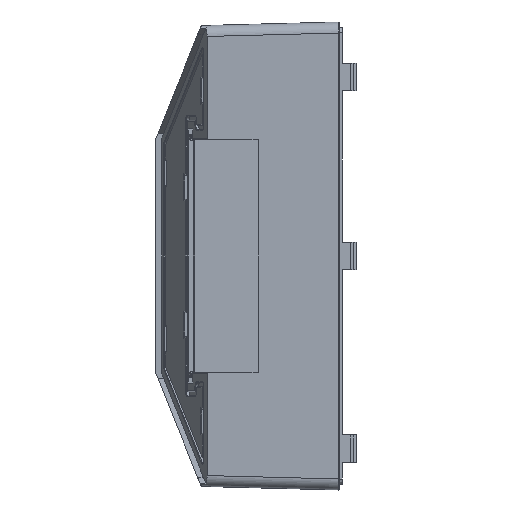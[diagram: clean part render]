
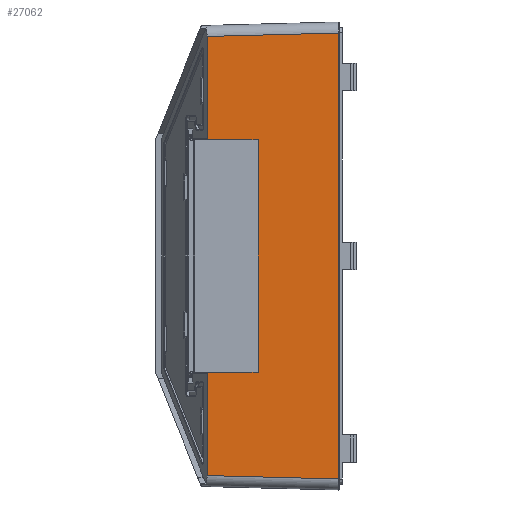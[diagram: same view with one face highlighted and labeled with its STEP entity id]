
A CAD part, left-side view. The second image highlights one B-rep face of the part: STEP entity #27062.
In plain terms, the highlighted planar face has unit normal (-1, 0.026, 0).
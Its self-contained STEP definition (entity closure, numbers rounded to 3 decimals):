
#5964=CARTESIAN_POINT('',(-84.992,0.3,80.994));
#5966=DIRECTION('',(0.,0.,1.));
#5967=VECTOR('',#5966,161.987);
#5968=CARTESIAN_POINT('',(-84.992,0.3,-80.994));
#5969=LINE('',#5968,#5967);
#5970=DIRECTION('',(-0.026,-0.999,-0.026));
#5971=VECTOR('',#5970,47.657);
#5972=CARTESIAN_POINT('',(-83.745,47.924,
-79.746));
#5973=LINE('',#5972,#5971);
#5974=DIRECTION('',(0.,0.,1.));
#5975=VECTOR('',#5974,37.096);
#5976=CARTESIAN_POINT('',(-83.745,47.924,
-79.746));
#5977=LINE('',#5976,#5975);
#5978=DIRECTION('',(-0.026,-1.,0.));
#5979=VECTOR('',#5978,0.156);
#5980=CARTESIAN_POINT('',(-83.745,47.924,-42.65));
#5981=LINE('',#5980,#5979);
#5982=DIRECTION('',(0.,0.,-1.));
#5983=VECTOR('',#5982,84.4);
#5984=CARTESIAN_POINT('',(-84.23,29.4,42.2));
#5985=LINE('',#5984,#5983);
#5986=DIRECTION('',(0.026,1.,0.));
#5987=VECTOR('',#5986,18.375);
#5988=CARTESIAN_POINT('',(-84.23,29.4,42.2));
#5989=LINE('',#5988,#5987);
#5990=DIRECTION('',(-0.026,-1.,0.));
#5991=VECTOR('',#5990,0.156);
#5992=CARTESIAN_POINT('',(-83.745,47.924,42.65));
#5993=LINE('',#5992,#5991);
#5994=DIRECTION('',(0.,0.,1.));
#5995=VECTOR('',#5994,37.096);
#5996=CARTESIAN_POINT('',(-83.745,47.924,42.65));
#5997=LINE('',#5996,#5995);
#5998=DIRECTION('',(-0.026,-0.999,0.026));
#5999=VECTOR('',#5998,47.657);
#6000=CARTESIAN_POINT('',(-83.745,47.924,79.746));
#6001=LINE('',#6000,#5999);
#6002=CARTESIAN_POINT('',(-84.992,0.3,-80.994));
#6194=CARTESIAN_POINT('',(-83.745,47.924,
-79.746));
#6212=CARTESIAN_POINT('',(-83.745,47.924,79.746));
#7649=DIRECTION('',(0.,0.,1.));
#7650=VECTOR('',#7649,0.45);
#7651=CARTESIAN_POINT('',(-83.749,47.769,-42.65));
#7652=LINE('',#7651,#7650);
#7657=DIRECTION('',(0.,0.,1.));
#7658=VECTOR('',#7657,0.45);
#7659=CARTESIAN_POINT('',(-83.749,47.769,42.2));
#7660=LINE('',#7659,#7658);
#7677=DIRECTION('',(0.026,1.,0.));
#7678=VECTOR('',#7677,18.375);
#7679=CARTESIAN_POINT('',(-84.23,29.4,-42.2));
#7680=LINE('',#7679,#7678);
#16599=VERTEX_POINT('',#6194);
#16600=VERTEX_POINT('',#6212);
#16609=CARTESIAN_POINT('',(-83.745,47.924,-42.65));
#16610=VERTEX_POINT('',#16609);
#16611=CARTESIAN_POINT('',(-83.745,47.924,42.65));
#16612=VERTEX_POINT('',#16611);
#19047=CARTESIAN_POINT('',(-84.23,29.4,42.2));
#19048=VERTEX_POINT('',#19047);
#19049=CARTESIAN_POINT('',(-83.749,47.769,42.2));
#19050=CARTESIAN_POINT('',(-83.749,47.769,42.65));
#19051=VERTEX_POINT('',#19049);
#19052=VERTEX_POINT('',#19050);
#19053=CARTESIAN_POINT('',(-84.23,29.4,-42.2));
#19054=VERTEX_POINT('',#19053);
#19055=CARTESIAN_POINT('',(-83.749,47.769,-42.65));
#19056=CARTESIAN_POINT('',(-83.749,47.769,-42.2));
#19057=VERTEX_POINT('',#19055);
#19058=VERTEX_POINT('',#19056);
#19243=VERTEX_POINT('',#6002);
#19244=VERTEX_POINT('',#5964);
#27033=CARTESIAN_POINT('',(-85.,0.,-85.));
#27034=DIRECTION('',(-1.,0.026,0.));
#27035=DIRECTION('',(0.,0.,1.));
#27036=AXIS2_PLACEMENT_3D('',#27033,#27034,#27035);
#27037=PLANE('',#27036);
#27038=ORIENTED_EDGE('',*,*,#26960,.F.);
#27040=ORIENTED_EDGE('',*,*,#27039,.F.);
#27042=ORIENTED_EDGE('',*,*,#27041,.T.);
#27044=ORIENTED_EDGE('',*,*,#27043,.T.);
#27046=ORIENTED_EDGE('',*,*,#27045,.T.);
#27048=ORIENTED_EDGE('',*,*,#27047,.F.);
#27050=ORIENTED_EDGE('',*,*,#27049,.F.);
#27052=ORIENTED_EDGE('',*,*,#27051,.T.);
#27054=ORIENTED_EDGE('',*,*,#27053,.T.);
#27056=ORIENTED_EDGE('',*,*,#27055,.F.);
#27058=ORIENTED_EDGE('',*,*,#27057,.T.);
#27059=ORIENTED_EDGE('',*,*,#27021,.T.);
#27060=EDGE_LOOP('',(#27038,#27040,#27042,#27044,#27046,#27048,#27050,#27052,
#27054,#27056,#27058,#27059));
#27061=FACE_OUTER_BOUND('',#27060,.F.);
#27062=ADVANCED_FACE('',(#27061),#27037,.T.);
#26960=EDGE_CURVE('',#19243,#19244,#5969,.T.);
#27021=EDGE_CURVE('',#16600,#19244,#6001,.T.);
#27039=EDGE_CURVE('',#16599,#19243,#5973,.T.);
#27041=EDGE_CURVE('',#16599,#16610,#5977,.T.);
#27043=EDGE_CURVE('',#16610,#19057,#5981,.T.);
#27045=EDGE_CURVE('',#19057,#19058,#7652,.T.);
#27047=EDGE_CURVE('',#19054,#19058,#7680,.T.);
#27049=EDGE_CURVE('',#19048,#19054,#5985,.T.);
#27051=EDGE_CURVE('',#19048,#19051,#5989,.T.);
#27053=EDGE_CURVE('',#19051,#19052,#7660,.T.);
#27055=EDGE_CURVE('',#16612,#19052,#5993,.T.);
#27057=EDGE_CURVE('',#16612,#16600,#5997,.T.);
